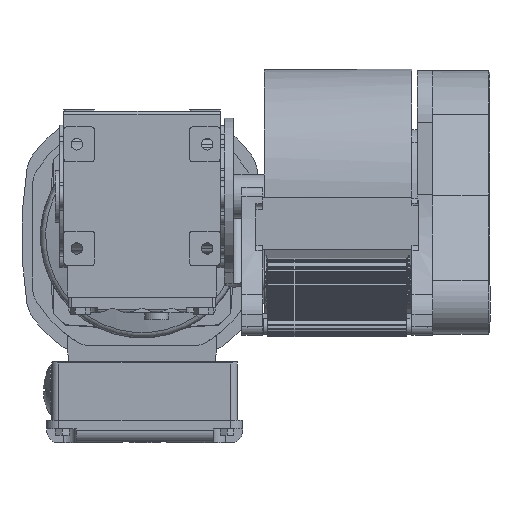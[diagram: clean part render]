
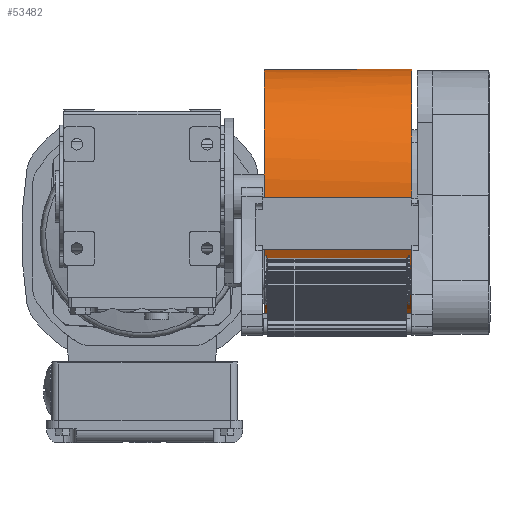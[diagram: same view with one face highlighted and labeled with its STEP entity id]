
A CAD part, left-side view. The second image highlights one B-rep face of the part: STEP entity #53482.
In plain terms, the highlighted cylindrical face has radius 73.3 mm (diameter 146.6 mm), a partial arc.
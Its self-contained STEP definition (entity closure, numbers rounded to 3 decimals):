
#3071=FACE_OUTER_BOUND('',#5962,.T.);
#5962=EDGE_LOOP('',(#37028,#37029,#37030,#37031,#37032));
#9522=LINE('',#81389,#13924);
#9523=LINE('',#81394,#13925);
#13924=VECTOR('',#64580,10.);
#13925=VECTOR('',#64587,10.);
#17873=CIRCLE('',#57067,73.3);
#17878=CIRCLE('',#57075,73.3);
#17879=CIRCLE('',#57076,73.3);
#21652=VERTEX_POINT('',#81361);
#21653=VERTEX_POINT('',#81363);
#21662=VERTEX_POINT('',#81385);
#21663=VERTEX_POINT('',#81387);
#21664=VERTEX_POINT('',#81391);
#27478=EDGE_CURVE('',#21652,#21653,#17873,.T.);
#27491=EDGE_CURVE('',#21663,#21662,#9522,.T.);
#27492=EDGE_CURVE('',#21664,#21662,#17878,.T.);
#27493=EDGE_CURVE('',#21653,#21663,#17879,.T.);
#27494=EDGE_CURVE('',#21652,#21664,#9523,.T.);
#37028=ORIENTED_EDGE('',*,*,#27492,.T.);
#37029=ORIENTED_EDGE('',*,*,#27491,.F.);
#37030=ORIENTED_EDGE('',*,*,#27493,.F.);
#37031=ORIENTED_EDGE('',*,*,#27478,.F.);
#37032=ORIENTED_EDGE('',*,*,#27494,.T.);
#49260=CYLINDRICAL_SURFACE('',#57074,73.3);
#53482=ADVANCED_FACE('',(#3071),#49260,.T.);
#57067=AXIS2_PLACEMENT_3D('',#81364,#64558,#64559);
#57074=AXIS2_PLACEMENT_3D('',#81390,#64581,#64582);
#57075=AXIS2_PLACEMENT_3D('',#81392,#64583,#64584);
#57076=AXIS2_PLACEMENT_3D('',#81393,#64585,#64586);
#64558=DIRECTION('center_axis',(0.,-1.,0.));
#64559=DIRECTION('ref_axis',(0.458,0.,0.889));
#64580=DIRECTION('',(0.,1.,0.));
#64581=DIRECTION('center_axis',(0.,1.,0.));
#64582=DIRECTION('ref_axis',(-0.952,0.,0.305));
#64583=DIRECTION('center_axis',(0.,-1.,0.));
#64584=DIRECTION('ref_axis',(0.458,0.,0.889));
#64585=DIRECTION('center_axis',(0.,-1.,0.));
#64586=DIRECTION('ref_axis',(0.458,0.,0.889));
#64587=DIRECTION('',(0.,1.,0.));
#81361=CARTESIAN_POINT('',(177.143,-108.7,60.875));
#81363=CARTESIAN_POINT('',(70.409,-108.7,-8.3));
#81364=CARTESIAN_POINT('Origin',(143.6,-108.7,-4.3));
#81385=CARTESIAN_POINT('',(133.058,-23.7,-76.838));
#81387=CARTESIAN_POINT('',(133.058,-108.7,-76.838));
#81389=CARTESIAN_POINT('',(133.058,-108.7,-76.838));
#81390=CARTESIAN_POINT('Origin',(143.6,-108.7,-4.3));
#81391=CARTESIAN_POINT('',(177.143,-23.7,60.875));
#81392=CARTESIAN_POINT('Origin',(143.6,-23.7,-4.3));
#81393=CARTESIAN_POINT('Origin',(143.6,-108.7,-4.3));
#81394=CARTESIAN_POINT('',(177.143,-108.7,60.875));
